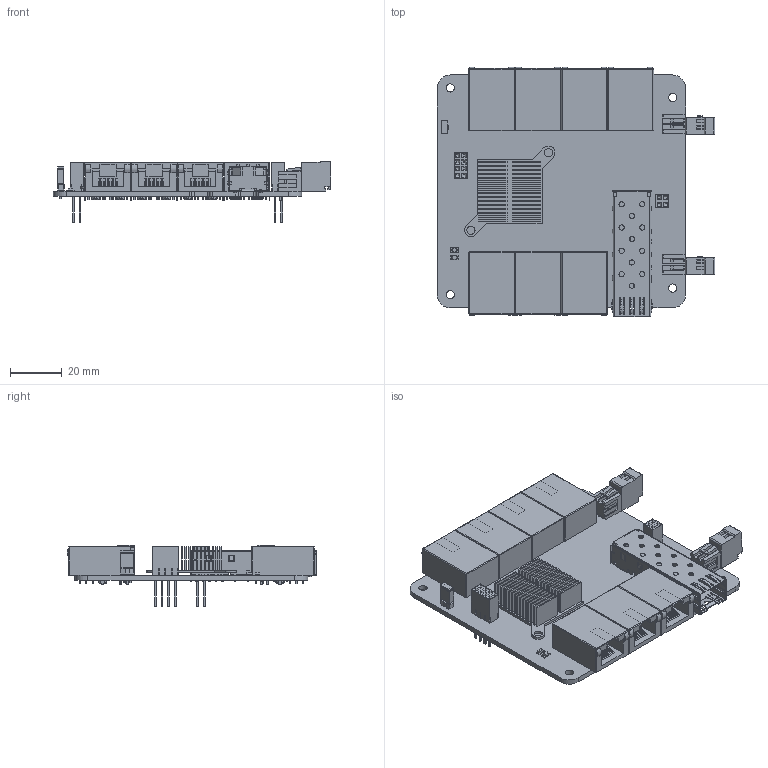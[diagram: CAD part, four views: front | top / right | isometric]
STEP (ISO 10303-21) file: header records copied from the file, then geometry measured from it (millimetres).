
FILE_DESCRIPTION(/* description */ ('PCB CS Ethernet Switch 8-port with SFP'),/* implementation_level */ '2;1');
FILE_NAME(/* name */ '117997 v7.step',/* time_stamp */ '2025-05-13T12:32:48+02:00',/* author */ (''),/* organization */ (''),/* preprocessor_version */ 'ST-DEVELOPER v20.1',/* originating_system */ 'Autodesk Translation Framework v14.4.0.0',/* authorisation */ '');
FILE_SCHEMA (('AUTOMOTIVE_DESIGN { 1 0 10303 214 3 1 1 }'));
Products named in the file (3): 117997; 100040; 100126
Assembly tree (3 placements, depth 2):
  117997
    100040  x2
    100126
Bounding box: 107.25 x 96.5 x 23.84 mm (x, y, z)
Volume: 50716.8 mm3; surface area: 45107.1 mm2
Topology: 5 solids, 5 shells, 3351 faces, 8970 edges, 5774 vertices
Faces by surface type: plane 2667, cylinder 592, cone 64, sphere 28
Full cylindrical faces by diameter (mm): 1.2 x4, 2 x12, 3.175 x2, 3.2 x4
Entity records: 101872 total; most frequent: CARTESIAN_POINT 17301, ORIENTED_EDGE 17074, DIRECTION 16089, EDGE_CURVE 8537, LINE 7401, VECTOR 7401, VERTEX_POINT 5526, AXIS2_PLACEMENT_3D 4344
